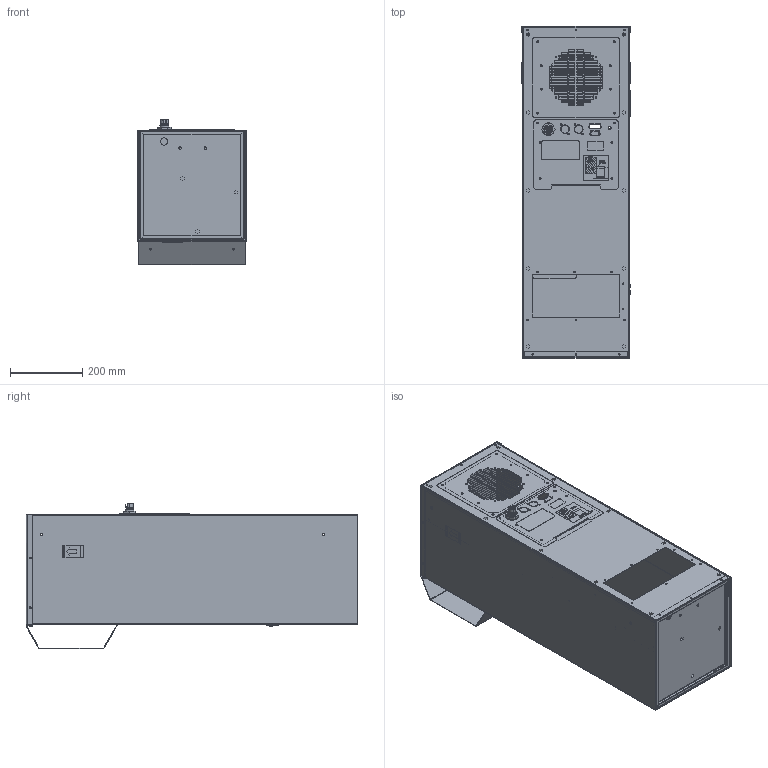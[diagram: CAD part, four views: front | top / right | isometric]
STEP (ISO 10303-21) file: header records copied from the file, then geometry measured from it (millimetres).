
FILE_DESCRIPTION (( 'STEP AP203' ), '1' );
FILE_NAME ('DTS 3165-85.STEP', '2017-11-29T13:41:52', ( '' ), ( '' ), 'SwSTEP 2.0', 'SolidWorks 2015', '' );
FILE_SCHEMA (( 'CONFIG_CONTROL_DESIGN' ));
Length unit declared in the file: millimetre
Products named in the file (17): 015080031; 80031-011_802000005; 80031-023_802000024 (304 SS); 80031-017_802000012; DTS 3165-85; 80031-016_802000011 (304 SS); 80031-013_802000007; 80031-021_802000017 (304 SS); 825500030_825500030; 085110140; 085110180; 885000105_885000105; 80000-007_885000131; 085110150; 80000-010_885000137; US-085110130_085110130; 80031-010_802000004
Assembly tree (17 placements, depth 2):
  DTS 3165-85
    80031-013_802000007
    825500030_825500030
    085110180
    80000-007_885000131
    80000-010_885000137
    80031-010_802000004
    80031-011_802000005
    80031-017_802000012
    80031-016_802000011 (304 SS)
    80031-021_802000017 (304 SS)
    085110140  x2
    885000105_885000105
    085110150
    US-085110130_085110130
    015080031
    80031-023_802000024 (304 SS)
Bounding box: 301.7 x 918.6 x 402.05 mm (x, y, z)
Volume: 1940566.8 mm3; surface area: 3171009.3 mm2
Topology: 48 solids, 49 shells, 7404 faces, 19991 edges, 13250 vertices
Faces by surface type: plane 4914, bspline 1899, cylinder 571, sphere 8, torus 6, cone 6
Entity records: 371423 total; most frequent: CARTESIAN_POINT 202297, ORIENTED_EDGE 38232, DIRECTION 26831, EDGE_CURVE 19116, LINE 14041, VECTOR 14041, VERTEX_POINT 12672, EDGE_LOOP 8338
